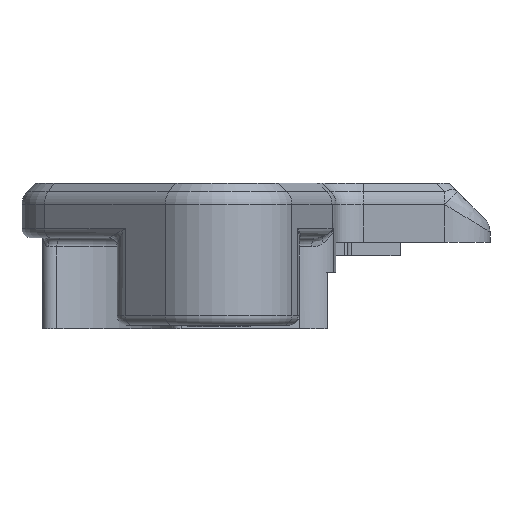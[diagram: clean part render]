
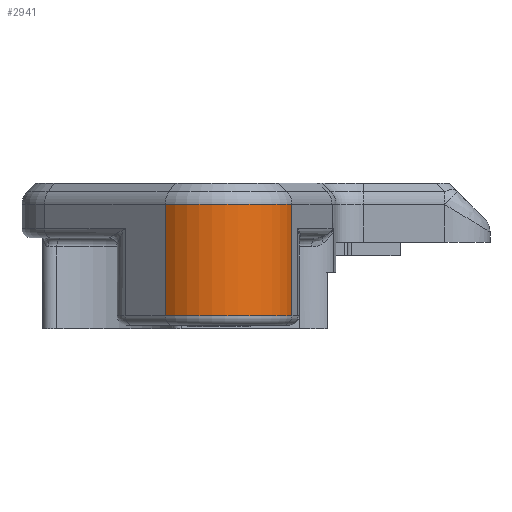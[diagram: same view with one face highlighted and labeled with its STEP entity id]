
A CAD part, front view. The second image highlights one B-rep face of the part: STEP entity #2941.
In plain terms, the highlighted cylindrical face has radius 8.4 mm (diameter 16.8 mm), a partial arc.
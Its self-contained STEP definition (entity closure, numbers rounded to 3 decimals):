
#149=CYLINDRICAL_SURFACE('',#3297,8.4);
#315=FACE_OUTER_BOUND('',#495,.T.);
#495=EDGE_LOOP('',(#2619,#2620,#2621,#2622));
#661=LINE('',#5076,#886);
#735=LINE('',#5452,#960);
#886=VECTOR('',#3819,10.);
#960=VECTOR('',#4199,10.);
#1125=CIRCLE('',#3275,8.4);
#1137=CIRCLE('',#3298,8.4);
#1319=VERTEX_POINT('',#5073);
#1320=VERTEX_POINT('',#5075);
#1392=VERTEX_POINT('',#5405);
#1405=VERTEX_POINT('',#5451);
#1665=EDGE_CURVE('',#1319,#1320,#661,.T.);
#1804=EDGE_CURVE('',#1320,#1392,#1125,.T.);
#1823=EDGE_CURVE('',#1392,#1405,#735,.T.);
#1825=EDGE_CURVE('',#1405,#1319,#1137,.T.);
#2619=ORIENTED_EDGE('',*,*,#1825,.F.);
#2620=ORIENTED_EDGE('',*,*,#1823,.F.);
#2621=ORIENTED_EDGE('',*,*,#1804,.F.);
#2622=ORIENTED_EDGE('',*,*,#1665,.F.);
#2941=ADVANCED_FACE('',(#315),#149,.T.);
#3275=AXIS2_PLACEMENT_3D('',#5410,#4148,#4149);
#3297=AXIS2_PLACEMENT_3D('',#5454,#4201,#4202);
#3298=AXIS2_PLACEMENT_3D('',#5455,#4203,#4204);
#3819=DIRECTION('',(0.,0.,1.));
#4148=DIRECTION('center_axis',(0.,0.,
1.));
#4149=DIRECTION('ref_axis',(0.246,-0.969,0.));
#4199=DIRECTION('',(0.,0.,-1.));
#4201=DIRECTION('center_axis',(0.,0.,
1.));
#4202=DIRECTION('ref_axis',(1.,0.,0.));
#4203=DIRECTION('center_axis',(0.,0.,
-1.));
#4204=DIRECTION('ref_axis',(0.246,-0.969,0.));
#5073=CARTESIAN_POINT('',(-41.781,147.501,79.1));
#5075=CARTESIAN_POINT('',(-41.781,147.501,91.372));
#5076=CARTESIAN_POINT('',(-41.781,147.501,77.7));
#5405=CARTESIAN_POINT('',(-27.845,151.031,91.372));
#5410=CARTESIAN_POINT('Origin',(-35.88,153.48,91.372));
#5451=CARTESIAN_POINT('',(-27.845,151.031,79.1));
#5452=CARTESIAN_POINT('',(-27.845,151.031,77.7));
#5454=CARTESIAN_POINT('Origin',(-35.88,153.48,77.7));
#5455=CARTESIAN_POINT('Origin',(-35.88,153.48,79.1));
